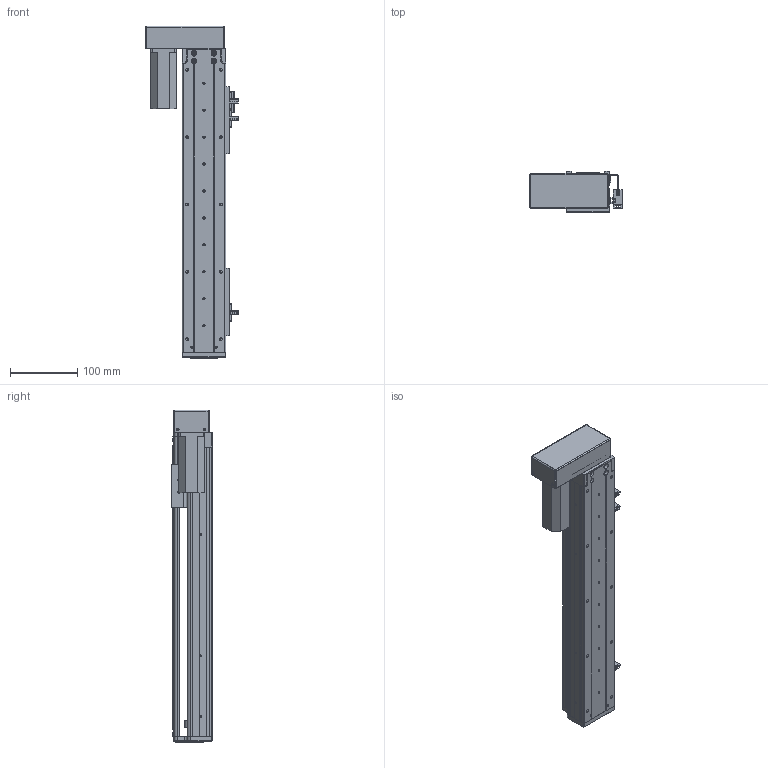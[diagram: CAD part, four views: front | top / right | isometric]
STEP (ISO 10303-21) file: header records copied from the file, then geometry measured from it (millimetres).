
FILE_DESCRIPTION (( 'STEP AP203' ), '1' );
FILE_NAME ('RY60-L1210-300-LK.SLDASM_300.step', '2021-02-20T06:53:43', ( '盈信电脑' ), ( '东莞市道滘镇水果街19号' ), 'SwSTEP 2.0', 'SolidWorks 2012', '' );
FILE_SCHEMA (( 'CONFIG_CONTROL_DESIGN' ));
Length unit declared in the file: millimetre
Products named in the file (14): RY60-L1210-300-LK.SLDASM_300; RY60左右折电机安装板-PCD46-M4; 侂狟100W; RY60酘衵殏萇儂欶; RY60转折电机端支撑座; 滅袉蝶18-10; RY80俋离覜茼え; 覜茼ん672; RY60綴裔啣; RY60臏賑輸; RY60-300倰第裔啣-LK; RY60-300-MGW12絳寢-LK; 672嫖萇羲壽假蚾釱; RY60-300倰第菁釱-LK
Assembly tree (19 placements, depth 2):
  RY60-L1210-300-LK.SLDASM_300
    RY60-300倰第菁釱-LK
    RY60-300-MGW12絳寢-LK
    RY60臏賑輸
    RY60-300倰第裔啣-LK
    672嫖萇羲壽假蚾釱  x2
    RY60綴裔啣
    覜茼ん672  x3
    RY80俋离覜茼え
    滅袉蝶18-10  x4
    RY60转折电机端支撑座
    RY60左右折电机安装板-PCD46-M4
    侂狟100W
    RY60酘衵殏萇儂欶
Bounding box: 137.9 x 61 x 493 mm (x, y, z)
Volume: 803661.6 mm3; surface area: 386806.5 mm2
Topology: 19 solids, 19 shells, 1459 faces, 4037 edges, 2590 vertices
Faces by surface type: plane 721, cylinder 617, cone 104, bspline 17
Entity records: 43197 total; most frequent: CARTESIAN_POINT 9916, ORIENTED_EDGE 6650, DIRECTION 6537, EDGE_CURVE 3325, AXIS2_PLACEMENT_3D 2261, VERTEX_POINT 2170, LINE 2015, VECTOR 2015
